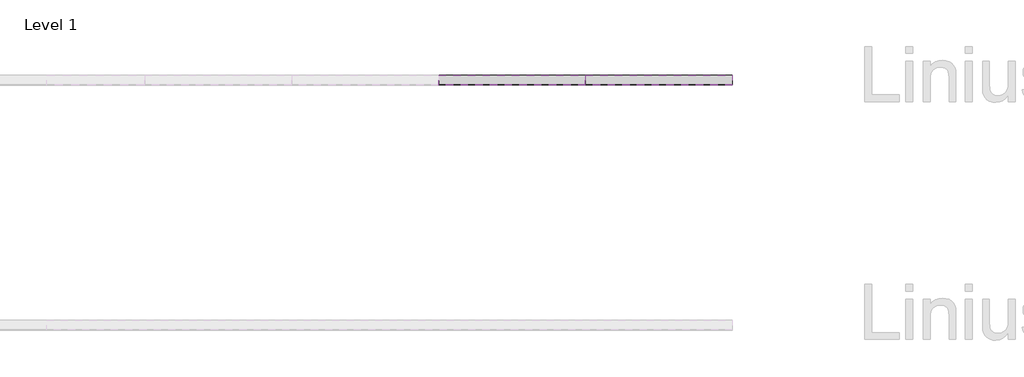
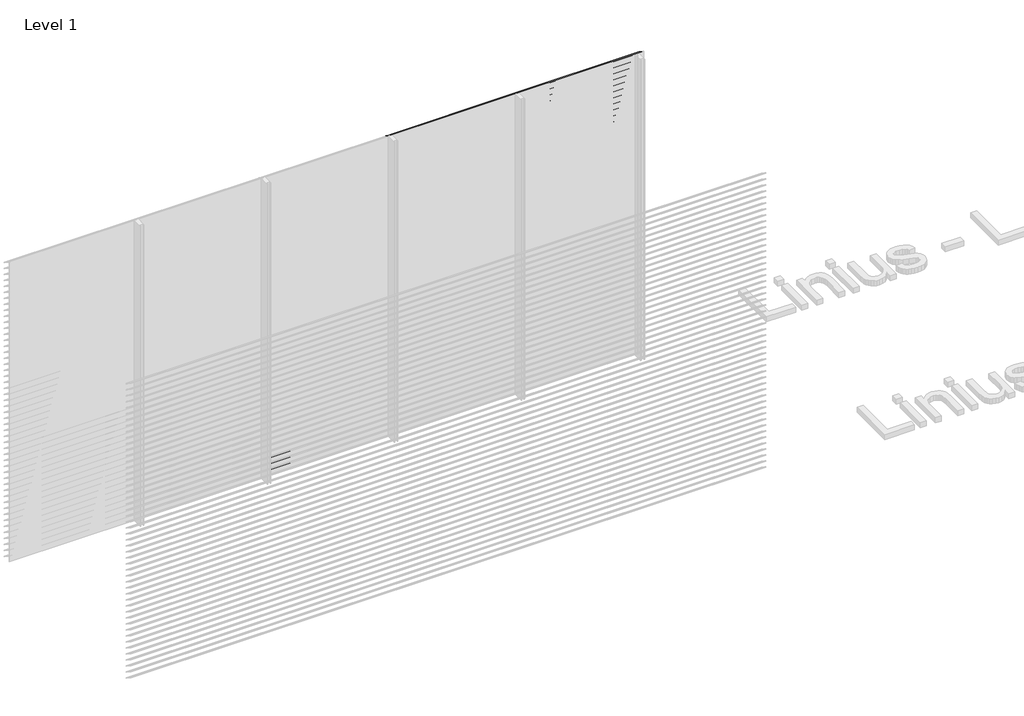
# One storey, part 80 of 153: 84 proxies.
"""IFC4 building model written with IfcOpenShell, lengths in millimetres."""

from ifc_helpers import new_model, si_unit, frame, origin, place, context, project, spatial, polyline, outline, extrude, element, save

model = new_model("IFC4")

# Units and contexts
model_context = context("Model", 3, world=origin())
ifc_project = project(units=[si_unit("LENGTHUNIT", "METRE", prefix="MILLI")], contexts=[model_context])

# Site, building, storey
site = spatial("IfcSite", under=ifc_project)
building = spatial("IfcBuilding", under=site)
storey = spatial("IfcBuildingStorey", under=building, Name="Level 1", Elevation=0.0)

# Proxies
placement = place(None, origin())
element("IfcBuildingElementProxy", 1, Name="Wall Sweeps", at=placement, inside=storey, context=model_context, shape_type="SweptSolid", body=[
    extrude(outline(polyline([(51561.0540136, 126.0), (51561.0540136, 120.0), (51559.8040136, 120.7216933), (51559.8040136, 125.2538091), (51483.0540136, 173.9915103), (51483.0540136, 180.0), (51484.3040136, 180.0), (51484.3040136, 174.7377012), (51561.0540136, 126.0)])), frame((2866.6208097, 0.0, 0.0), z_axis=(1.0, 0.0, 0.0), x_axis=(0.0, 1.0, 0.0)), (0.0, 0.0, 1.0), 1199.9999999),
])
element("IfcBuildingElementProxy", 2, Name="Wall Sweeps", at=placement, inside=storey, context=model_context, shape_type="SweptSolid", body=[
    extrude(outline(polyline([(51561.0540136, 66.0), (51561.0540136, 60.0), (51559.8040136, 60.7216933), (51559.8040136, 65.2538091), (51483.0540136, 113.9915103), (51483.0540136, 120.0), (51484.3040136, 120.0), (51484.3040136, 114.7377012), (51561.0540136, 66.0)])), frame((2866.6208097, 0.0, 0.0), z_axis=(1.0, 0.0, 0.0), x_axis=(0.0, 1.0, 0.0)), (0.0, 0.0, 1.0), 1199.9999999),
])
element("IfcBuildingElementProxy", 3, Name="Wall Sweeps", at=placement, inside=storey, context=model_context, shape_type="SweptSolid", body=[
    extrude(outline(polyline([(51561.0540136, 6.0), (51561.0540136, 0.0), (51559.8040136, 0.7216933), (51559.8040136, 5.2538091), (51483.0540136, 53.9915103), (51483.0540136, 60.0), (51484.3040136, 60.0), (51484.3040136, 54.7377012), (51561.0540136, 6.0)])), frame((2866.6208097, 0.0, 0.0), z_axis=(1.0, 0.0, 0.0), x_axis=(0.0, 1.0, 0.0)), (0.0, 0.0, 1.0), 1199.9999999),
])
element("IfcBuildingElementProxy", 4, Name="Wall Sweeps", at=placement, inside=storey, context=model_context, shape_type="SweptSolid", body=[
    extrude(outline(polyline([(51561.0540136, 2946.0), (51561.0540136, 2940.0), (51559.8040136, 2940.7216933), (51559.8040136, 2945.2538091), (51483.0540136, 2993.9915103), (51483.0540136, 3000.0), (51484.3040136, 3000.0), (51484.3040136, 2994.7377012), (51561.0540136, 2946.0)])), frame((4066.6208096, 0.0, 0.0), z_axis=(1.0, 0.0, 0.0), x_axis=(0.0, 1.0, 0.0)), (0.0, 0.0, 1.0), 1199.9999999),
])
element("IfcBuildingElementProxy", 5, Name="Wall Sweeps", at=placement, inside=storey, context=model_context, shape_type="SweptSolid", body=[
    extrude(outline(polyline([(51561.0540136, 2886.0), (51561.0540136, 2880.0), (51559.8040136, 2880.7216933), (51559.8040136, 2885.2538091), (51483.0540136, 2933.9915103), (51483.0540136, 2940.0), (51484.3040136, 2940.0), (51484.3040136, 2934.7377012), (51561.0540136, 2886.0)])), frame((4066.6208096, 0.0, 0.0), z_axis=(1.0, 0.0, 0.0), x_axis=(0.0, 1.0, 0.0)), (0.0, 0.0, 1.0), 1199.9999999),
])
element("IfcBuildingElementProxy", 6, Name="Wall Sweeps", at=placement, inside=storey, context=model_context, shape_type="SweptSolid", body=[
    extrude(outline(polyline([(51561.0540136, 2826.0), (51561.0540136, 2820.0), (51559.8040136, 2820.7216933), (51559.8040136, 2825.2538091), (51483.0540136, 2873.9915103), (51483.0540136, 2880.0), (51484.3040136, 2880.0), (51484.3040136, 2874.7377012), (51561.0540136, 2826.0)])), frame((4066.6208096, 0.0, 0.0), z_axis=(1.0, 0.0, 0.0), x_axis=(0.0, 1.0, 0.0)), (0.0, 0.0, 1.0), 1199.9999999),
])
element("IfcBuildingElementProxy", 7, Name="Wall Sweeps", at=placement, inside=storey, context=model_context, shape_type="SweptSolid", body=[
    extrude(outline(polyline([(51561.0540136, 2766.0), (51561.0540136, 2760.0), (51559.8040136, 2760.7216933), (51559.8040136, 2765.2538091), (51483.0540136, 2813.9915103), (51483.0540136, 2820.0), (51484.3040136, 2820.0), (51484.3040136, 2814.7377012), (51561.0540136, 2766.0)])), frame((4066.6208096, 0.0, 0.0), z_axis=(1.0, 0.0, 0.0), x_axis=(0.0, 1.0, 0.0)), (0.0, 0.0, 1.0), 1199.9999999),
])
element("IfcBuildingElementProxy", 8, Name="Wall Sweeps", at=placement, inside=storey, context=model_context, shape_type="SweptSolid", body=[
    extrude(outline(polyline([(51561.0540136, 2706.0), (51561.0540136, 2700.0), (51559.8040136, 2700.7216933), (51559.8040136, 2705.2538091), (51483.0540136, 2753.9915103), (51483.0540136, 2760.0), (51484.3040136, 2760.0), (51484.3040136, 2754.7377012), (51561.0540136, 2706.0)])), frame((4066.6208096, 0.0, 0.0), z_axis=(1.0, 0.0, 0.0), x_axis=(0.0, 1.0, 0.0)), (0.0, 0.0, 1.0), 1199.9999999),
])
element("IfcBuildingElementProxy", 9, Name="Wall Sweeps", at=placement, inside=storey, context=model_context, shape_type="SweptSolid", body=[
    extrude(outline(polyline([(51561.0540136, 2646.0), (51561.0540136, 2640.0), (51559.8040136, 2640.7216933), (51559.8040136, 2645.2538091), (51483.0540136, 2693.9915103), (51483.0540136, 2700.0), (51484.3040136, 2700.0), (51484.3040136, 2694.7377012), (51561.0540136, 2646.0)])), frame((4066.6208096, 0.0, 0.0), z_axis=(1.0, 0.0, 0.0), x_axis=(0.0, 1.0, 0.0)), (0.0, 0.0, 1.0), 1199.9999999),
])
element("IfcBuildingElementProxy", 10, Name="Wall Sweeps", at=placement, inside=storey, context=model_context, shape_type="SweptSolid", body=[
    extrude(outline(polyline([(51561.0540136, 2586.0), (51561.0540136, 2580.0), (51559.8040136, 2580.7216933), (51559.8040136, 2585.2538091), (51483.0540136, 2633.9915103), (51483.0540136, 2640.0), (51484.3040136, 2640.0), (51484.3040136, 2634.7377012), (51561.0540136, 2586.0)])), frame((4066.6208096, 0.0, 0.0), z_axis=(1.0, 0.0, 0.0), x_axis=(0.0, 1.0, 0.0)), (0.0, 0.0, 1.0), 1199.9999999),
])
element("IfcBuildingElementProxy", 11, Name="Wall Sweeps", at=placement, inside=storey, context=model_context, shape_type="SweptSolid", body=[
    extrude(outline(polyline([(51561.0540136, 2526.0), (51561.0540136, 2520.0), (51559.8040136, 2520.7216933), (51559.8040136, 2525.2538091), (51483.0540136, 2573.9915103), (51483.0540136, 2580.0), (51484.3040136, 2580.0), (51484.3040136, 2574.7377012), (51561.0540136, 2526.0)])), frame((4066.6208096, 0.0, 0.0), z_axis=(1.0, 0.0, 0.0), x_axis=(0.0, 1.0, 0.0)), (0.0, 0.0, 1.0), 1199.9999999),
])
element("IfcBuildingElementProxy", 12, Name="Wall Sweeps", at=placement, inside=storey, context=model_context, shape_type="SweptSolid", body=[
    extrude(outline(polyline([(51561.0540136, 2466.0), (51561.0540136, 2460.0), (51559.8040136, 2460.7216933), (51559.8040136, 2465.2538091), (51483.0540136, 2513.9915103), (51483.0540136, 2520.0), (51484.3040136, 2520.0), (51484.3040136, 2514.7377012), (51561.0540136, 2466.0)])), frame((4066.6208096, 0.0, 0.0), z_axis=(1.0, 0.0, 0.0), x_axis=(0.0, 1.0, 0.0)), (0.0, 0.0, 1.0), 1199.9999999),
])
element("IfcBuildingElementProxy", 13, Name="Wall Sweeps", at=placement, inside=storey, context=model_context, shape_type="SweptSolid", body=[
    extrude(outline(polyline([(51561.0540136, 2406.0), (51561.0540136, 2400.0), (51559.8040136, 2400.7216933), (51559.8040136, 2405.2538091), (51483.0540136, 2453.9915103), (51483.0540136, 2460.0), (51484.3040136, 2460.0), (51484.3040136, 2454.7377012), (51561.0540136, 2406.0)])), frame((4066.6208096, 0.0, 0.0), z_axis=(1.0, 0.0, 0.0), x_axis=(0.0, 1.0, 0.0)), (0.0, 0.0, 1.0), 1199.9999999),
])
element("IfcBuildingElementProxy", 14, Name="Wall Sweeps", at=placement, inside=storey, context=model_context, shape_type="SweptSolid", body=[
    extrude(outline(polyline([(51561.0540136, 2346.0), (51561.0540136, 2340.0), (51559.8040136, 2340.7216933), (51559.8040136, 2345.2538091), (51483.0540136, 2393.9915103), (51483.0540136, 2400.0), (51484.3040136, 2400.0), (51484.3040136, 2394.7377012), (51561.0540136, 2346.0)])), frame((4066.6208096, 0.0, 0.0), z_axis=(1.0, 0.0, 0.0), x_axis=(0.0, 1.0, 0.0)), (0.0, 0.0, 1.0), 1199.9999999),
])
element("IfcBuildingElementProxy", 15, Name="Wall Sweeps", at=placement, inside=storey, context=model_context, shape_type="SweptSolid", body=[
    extrude(outline(polyline([(51561.0540136, 2286.0), (51561.0540136, 2280.0), (51559.8040136, 2280.7216933), (51559.8040136, 2285.2538091), (51483.0540136, 2333.9915103), (51483.0540136, 2340.0), (51484.3040136, 2340.0), (51484.3040136, 2334.7377012), (51561.0540136, 2286.0)])), frame((4066.6208096, 0.0, 0.0), z_axis=(1.0, 0.0, 0.0), x_axis=(0.0, 1.0, 0.0)), (0.0, 0.0, 1.0), 1199.9999999),
])
element("IfcBuildingElementProxy", 16, Name="Wall Sweeps", at=placement, inside=storey, context=model_context, shape_type="SweptSolid", body=[
    extrude(outline(polyline([(51561.0540136, 2226.0), (51561.0540136, 2220.0), (51559.8040136, 2220.7216933), (51559.8040136, 2225.2538091), (51483.0540136, 2273.9915103), (51483.0540136, 2280.0), (51484.3040136, 2280.0), (51484.3040136, 2274.7377012), (51561.0540136, 2226.0)])), frame((4066.6208096, 0.0, 0.0), z_axis=(1.0, 0.0, 0.0), x_axis=(0.0, 1.0, 0.0)), (0.0, 0.0, 1.0), 1199.9999999),
])
element("IfcBuildingElementProxy", 17, Name="Wall Sweeps", at=placement, inside=storey, context=model_context, shape_type="SweptSolid", body=[
    extrude(outline(polyline([(51561.0540136, 2166.0), (51561.0540136, 2160.0), (51559.8040136, 2160.7216933), (51559.8040136, 2165.2538091), (51483.0540136, 2213.9915103), (51483.0540136, 2220.0), (51484.3040136, 2220.0), (51484.3040136, 2214.7377012), (51561.0540136, 2166.0)])), frame((4066.6208096, 0.0, 0.0), z_axis=(1.0, 0.0, 0.0), x_axis=(0.0, 1.0, 0.0)), (0.0, 0.0, 1.0), 1199.9999999),
])
element("IfcBuildingElementProxy", 18, Name="Wall Sweeps", at=placement, inside=storey, context=model_context, shape_type="SweptSolid", body=[
    extrude(outline(polyline([(51561.0540136, 2106.0), (51561.0540136, 2100.0), (51559.8040136, 2100.7216933), (51559.8040136, 2105.2538091), (51483.0540136, 2153.9915103), (51483.0540136, 2160.0), (51484.3040136, 2160.0), (51484.3040136, 2154.7377012), (51561.0540136, 2106.0)])), frame((4066.6208096, 0.0, 0.0), z_axis=(1.0, 0.0, 0.0), x_axis=(0.0, 1.0, 0.0)), (0.0, 0.0, 1.0), 1199.9999999),
])
element("IfcBuildingElementProxy", 19, Name="Wall Sweeps", at=placement, inside=storey, context=model_context, shape_type="SweptSolid", body=[
    extrude(outline(polyline([(51561.0540136, 2046.0), (51561.0540136, 2040.0), (51559.8040136, 2040.7216933), (51559.8040136, 2045.2538091), (51483.0540136, 2093.9915103), (51483.0540136, 2100.0), (51484.3040136, 2100.0), (51484.3040136, 2094.7377012), (51561.0540136, 2046.0)])), frame((4066.6208096, 0.0, 0.0), z_axis=(1.0, 0.0, 0.0), x_axis=(0.0, 1.0, 0.0)), (0.0, 0.0, 1.0), 1199.9999999),
])
element("IfcBuildingElementProxy", 20, Name="Wall Sweeps", at=placement, inside=storey, context=model_context, shape_type="SweptSolid", body=[
    extrude(outline(polyline([(51561.0540136, 1986.0), (51561.0540136, 1980.0), (51559.8040136, 1980.7216933), (51559.8040136, 1985.2538091), (51483.0540136, 2033.9915103), (51483.0540136, 2040.0), (51484.3040136, 2040.0), (51484.3040136, 2034.7377012), (51561.0540136, 1986.0)])), frame((4066.6208096, 0.0, 0.0), z_axis=(1.0, 0.0, 0.0), x_axis=(0.0, 1.0, 0.0)), (0.0, 0.0, 1.0), 1199.9999999),
])
element("IfcBuildingElementProxy", 21, Name="Wall Sweeps", at=placement, inside=storey, context=model_context, shape_type="SweptSolid", body=[
    extrude(outline(polyline([(51561.0540136, 1926.0), (51561.0540136, 1920.0), (51559.8040136, 1920.7216933), (51559.8040136, 1925.2538091), (51483.0540136, 1973.9915103), (51483.0540136, 1980.0), (51484.3040136, 1980.0), (51484.3040136, 1974.7377012), (51561.0540136, 1926.0)])), frame((4066.6208096, 0.0, 0.0), z_axis=(1.0, 0.0, 0.0), x_axis=(0.0, 1.0, 0.0)), (0.0, 0.0, 1.0), 1199.9999999),
])
element("IfcBuildingElementProxy", 22, Name="Wall Sweeps", at=placement, inside=storey, context=model_context, shape_type="SweptSolid", body=[
    extrude(outline(polyline([(51561.0540136, 1866.0), (51561.0540136, 1860.0), (51559.8040136, 1860.7216933), (51559.8040136, 1865.2538091), (51483.0540136, 1913.9915103), (51483.0540136, 1920.0), (51484.3040136, 1920.0), (51484.3040136, 1914.7377012), (51561.0540136, 1866.0)])), frame((4066.6208096, 0.0, 0.0), z_axis=(1.0, 0.0, 0.0), x_axis=(0.0, 1.0, 0.0)), (0.0, 0.0, 1.0), 1199.9999999),
])
element("IfcBuildingElementProxy", 23, Name="Wall Sweeps", at=placement, inside=storey, context=model_context, shape_type="SweptSolid", body=[
    extrude(outline(polyline([(51561.0540136, 1806.0), (51561.0540136, 1800.0), (51559.8040136, 1800.7216933), (51559.8040136, 1805.2538091), (51483.0540136, 1853.9915103), (51483.0540136, 1860.0), (51484.3040136, 1860.0), (51484.3040136, 1854.7377012), (51561.0540136, 1806.0)])), frame((4066.6208096, 0.0, 0.0), z_axis=(1.0, 0.0, 0.0), x_axis=(0.0, 1.0, 0.0)), (0.0, 0.0, 1.0), 1199.9999999),
])
element("IfcBuildingElementProxy", 24, Name="Wall Sweeps", at=placement, inside=storey, context=model_context, shape_type="SweptSolid", body=[
    extrude(outline(polyline([(51561.0540136, 1746.0), (51561.0540136, 1740.0), (51559.8040136, 1740.7216933), (51559.8040136, 1745.2538091), (51483.0540136, 1793.9915103), (51483.0540136, 1800.0), (51484.3040136, 1800.0), (51484.3040136, 1794.7377012), (51561.0540136, 1746.0)])), frame((4066.6208096, 0.0, 0.0), z_axis=(1.0, 0.0, 0.0), x_axis=(0.0, 1.0, 0.0)), (0.0, 0.0, 1.0), 1199.9999999),
])
element("IfcBuildingElementProxy", 25, Name="Wall Sweeps", at=placement, inside=storey, context=model_context, shape_type="SweptSolid", body=[
    extrude(outline(polyline([(51561.0540136, 1686.0), (51561.0540136, 1680.0), (51559.8040136, 1680.7216933), (51559.8040136, 1685.2538091), (51483.0540136, 1733.9915103), (51483.0540136, 1740.0), (51484.3040136, 1740.0), (51484.3040136, 1734.7377012), (51561.0540136, 1686.0)])), frame((4066.6208096, 0.0, 0.0), z_axis=(1.0, 0.0, 0.0), x_axis=(0.0, 1.0, 0.0)), (0.0, 0.0, 1.0), 1199.9999999),
])
element("IfcBuildingElementProxy", 26, Name="Wall Sweeps", at=placement, inside=storey, context=model_context, shape_type="SweptSolid", body=[
    extrude(outline(polyline([(51561.0540136, 1626.0), (51561.0540136, 1620.0), (51559.8040136, 1620.7216933), (51559.8040136, 1625.2538091), (51483.0540136, 1673.9915103), (51483.0540136, 1680.0), (51484.3040136, 1680.0), (51484.3040136, 1674.7377012), (51561.0540136, 1626.0)])), frame((4066.6208096, 0.0, 0.0), z_axis=(1.0, 0.0, 0.0), x_axis=(0.0, 1.0, 0.0)), (0.0, 0.0, 1.0), 1199.9999999),
])
element("IfcBuildingElementProxy", 27, Name="Wall Sweeps", at=placement, inside=storey, context=model_context, shape_type="SweptSolid", body=[
    extrude(outline(polyline([(51561.0540136, 1566.0), (51561.0540136, 1560.0), (51559.8040136, 1560.7216933), (51559.8040136, 1565.2538091), (51483.0540136, 1613.9915103), (51483.0540136, 1620.0), (51484.3040136, 1620.0), (51484.3040136, 1614.7377012), (51561.0540136, 1566.0)])), frame((4066.6208096, 0.0, 0.0), z_axis=(1.0, 0.0, 0.0), x_axis=(0.0, 1.0, 0.0)), (0.0, 0.0, 1.0), 1199.9999999),
])
element("IfcBuildingElementProxy", 28, Name="Wall Sweeps", at=placement, inside=storey, context=model_context, shape_type="SweptSolid", body=[
    extrude(outline(polyline([(51561.0540136, 1506.0), (51561.0540136, 1500.0), (51559.8040136, 1500.7216933), (51559.8040136, 1505.2538091), (51483.0540136, 1553.9915103), (51483.0540136, 1560.0), (51484.3040136, 1560.0), (51484.3040136, 1554.7377012), (51561.0540136, 1506.0)])), frame((4066.6208096, 0.0, 0.0), z_axis=(1.0, 0.0, 0.0), x_axis=(0.0, 1.0, 0.0)), (0.0, 0.0, 1.0), 1199.9999999),
])
element("IfcBuildingElementProxy", 29, Name="Wall Sweeps", at=placement, inside=storey, context=model_context, shape_type="SweptSolid", body=[
    extrude(outline(polyline([(51561.0540136, 1446.0), (51561.0540136, 1440.0), (51559.8040136, 1440.7216933), (51559.8040136, 1445.2538091), (51483.0540136, 1493.9915103), (51483.0540136, 1500.0), (51484.3040136, 1500.0), (51484.3040136, 1494.7377012), (51561.0540136, 1446.0)])), frame((4066.6208096, 0.0, 0.0), z_axis=(1.0, 0.0, 0.0), x_axis=(0.0, 1.0, 0.0)), (0.0, 0.0, 1.0), 1199.9999999),
])
element("IfcBuildingElementProxy", 30, Name="Wall Sweeps", at=placement, inside=storey, context=model_context, shape_type="SweptSolid", body=[
    extrude(outline(polyline([(51561.0540136, 1386.0), (51561.0540136, 1380.0), (51559.8040136, 1380.7216933), (51559.8040136, 1385.2538091), (51483.0540136, 1433.9915103), (51483.0540136, 1440.0), (51484.3040136, 1440.0), (51484.3040136, 1434.7377012), (51561.0540136, 1386.0)])), frame((4066.6208096, 0.0, 0.0), z_axis=(1.0, 0.0, 0.0), x_axis=(0.0, 1.0, 0.0)), (0.0, 0.0, 1.0), 1199.9999999),
])
element("IfcBuildingElementProxy", 31, Name="Wall Sweeps", at=placement, inside=storey, context=model_context, shape_type="SweptSolid", body=[
    extrude(outline(polyline([(51561.0540136, 1326.0), (51561.0540136, 1320.0), (51559.8040136, 1320.7216933), (51559.8040136, 1325.2538091), (51483.0540136, 1373.9915103), (51483.0540136, 1380.0), (51484.3040136, 1380.0), (51484.3040136, 1374.7377012), (51561.0540136, 1326.0)])), frame((4066.6208096, 0.0, 0.0), z_axis=(1.0, 0.0, 0.0), x_axis=(0.0, 1.0, 0.0)), (0.0, 0.0, 1.0), 1199.9999999),
])
element("IfcBuildingElementProxy", 32, Name="Wall Sweeps", at=placement, inside=storey, context=model_context, shape_type="SweptSolid", body=[
    extrude(outline(polyline([(51561.0540136, 1266.0), (51561.0540136, 1260.0), (51559.8040136, 1260.7216933), (51559.8040136, 1265.2538091), (51483.0540136, 1313.9915103), (51483.0540136, 1320.0), (51484.3040136, 1320.0), (51484.3040136, 1314.7377012), (51561.0540136, 1266.0)])), frame((4066.6208096, 0.0, 0.0), z_axis=(1.0, 0.0, 0.0), x_axis=(0.0, 1.0, 0.0)), (0.0, 0.0, 1.0), 1199.9999999),
])
element("IfcBuildingElementProxy", 33, Name="Wall Sweeps", at=placement, inside=storey, context=model_context, shape_type="SweptSolid", body=[
    extrude(outline(polyline([(51561.0540136, 1206.0), (51561.0540136, 1200.0), (51559.8040136, 1200.7216933), (51559.8040136, 1205.2538091), (51483.0540136, 1253.9915103), (51483.0540136, 1260.0), (51484.3040136, 1260.0), (51484.3040136, 1254.7377012), (51561.0540136, 1206.0)])), frame((4066.6208096, 0.0, 0.0), z_axis=(1.0, 0.0, 0.0), x_axis=(0.0, 1.0, 0.0)), (0.0, 0.0, 1.0), 1199.9999999),
])
element("IfcBuildingElementProxy", 34, Name="Wall Sweeps", at=placement, inside=storey, context=model_context, shape_type="SweptSolid", body=[
    extrude(outline(polyline([(51561.0540136, 1146.0), (51561.0540136, 1140.0), (51559.8040136, 1140.7216933), (51559.8040136, 1145.2538091), (51483.0540136, 1193.9915103), (51483.0540136, 1200.0), (51484.3040136, 1200.0), (51484.3040136, 1194.7377012), (51561.0540136, 1146.0)])), frame((4066.6208096, 0.0, 0.0), z_axis=(1.0, 0.0, 0.0), x_axis=(0.0, 1.0, 0.0)), (0.0, 0.0, 1.0), 1199.9999999),
])
element("IfcBuildingElementProxy", 35, Name="Wall Sweeps", at=placement, inside=storey, context=model_context, shape_type="SweptSolid", body=[
    extrude(outline(polyline([(51561.0540136, 1086.0), (51561.0540136, 1080.0), (51559.8040136, 1080.7216933), (51559.8040136, 1085.2538091), (51483.0540136, 1133.9915103), (51483.0540136, 1140.0), (51484.3040136, 1140.0), (51484.3040136, 1134.7377012), (51561.0540136, 1086.0)])), frame((4066.6208096, 0.0, 0.0), z_axis=(1.0, 0.0, 0.0), x_axis=(0.0, 1.0, 0.0)), (0.0, 0.0, 1.0), 1199.9999999),
])
element("IfcBuildingElementProxy", 36, Name="Wall Sweeps", at=placement, inside=storey, context=model_context, shape_type="SweptSolid", body=[
    extrude(outline(polyline([(51561.0540136, 1026.0), (51561.0540136, 1020.0), (51559.8040136, 1020.7216933), (51559.8040136, 1025.2538091), (51483.0540136, 1073.9915103), (51483.0540136, 1080.0), (51484.3040136, 1080.0), (51484.3040136, 1074.7377012), (51561.0540136, 1026.0)])), frame((4066.6208096, 0.0, 0.0), z_axis=(1.0, 0.0, 0.0), x_axis=(0.0, 1.0, 0.0)), (0.0, 0.0, 1.0), 1199.9999999),
])
element("IfcBuildingElementProxy", 37, Name="Wall Sweeps", at=placement, inside=storey, context=model_context, shape_type="SweptSolid", body=[
    extrude(outline(polyline([(51561.0540136, 966.0), (51561.0540136, 960.0), (51559.8040136, 960.7216933), (51559.8040136, 965.2538091), (51483.0540136, 1013.9915103), (51483.0540136, 1020.0), (51484.3040136, 1020.0), (51484.3040136, 1014.7377012), (51561.0540136, 966.0)])), frame((4066.6208096, 0.0, 0.0), z_axis=(1.0, 0.0, 0.0), x_axis=(0.0, 1.0, 0.0)), (0.0, 0.0, 1.0), 1199.9999999),
])
element("IfcBuildingElementProxy", 38, Name="Wall Sweeps", at=placement, inside=storey, context=model_context, shape_type="SweptSolid", body=[
    extrude(outline(polyline([(51561.0540136, 906.0), (51561.0540136, 900.0), (51559.8040136, 900.7216933), (51559.8040136, 905.2538091), (51483.0540136, 953.9915103), (51483.0540136, 960.0), (51484.3040136, 960.0), (51484.3040136, 954.7377012), (51561.0540136, 906.0)])), frame((4066.6208096, 0.0, 0.0), z_axis=(1.0, 0.0, 0.0), x_axis=(0.0, 1.0, 0.0)), (0.0, 0.0, 1.0), 1199.9999999),
])
element("IfcBuildingElementProxy", 39, Name="Wall Sweeps", at=placement, inside=storey, context=model_context, shape_type="SweptSolid", body=[
    extrude(outline(polyline([(51561.0540136, 846.0), (51561.0540136, 840.0), (51559.8040136, 840.7216933), (51559.8040136, 845.2538091), (51483.0540136, 893.9915103), (51483.0540136, 900.0), (51484.3040136, 900.0), (51484.3040136, 894.7377012), (51561.0540136, 846.0)])), frame((4066.6208096, 0.0, 0.0), z_axis=(1.0, 0.0, 0.0), x_axis=(0.0, 1.0, 0.0)), (0.0, 0.0, 1.0), 1199.9999999),
])
element("IfcBuildingElementProxy", 40, Name="Wall Sweeps", at=placement, inside=storey, context=model_context, shape_type="SweptSolid", body=[
    extrude(outline(polyline([(51561.0540136, 786.0), (51561.0540136, 780.0), (51559.8040136, 780.7216933), (51559.8040136, 785.2538091), (51483.0540136, 833.9915103), (51483.0540136, 840.0), (51484.3040136, 840.0), (51484.3040136, 834.7377012), (51561.0540136, 786.0)])), frame((4066.6208096, 0.0, 0.0), z_axis=(1.0, 0.0, 0.0), x_axis=(0.0, 1.0, 0.0)), (0.0, 0.0, 1.0), 1199.9999999),
])
element("IfcBuildingElementProxy", 41, Name="Wall Sweeps", at=placement, inside=storey, context=model_context, shape_type="SweptSolid", body=[
    extrude(outline(polyline([(51561.0540136, 726.0), (51561.0540136, 720.0), (51559.8040136, 720.7216933), (51559.8040136, 725.2538091), (51483.0540136, 773.9915103), (51483.0540136, 780.0), (51484.3040136, 780.0), (51484.3040136, 774.7377012), (51561.0540136, 726.0)])), frame((4066.6208096, 0.0, 0.0), z_axis=(1.0, 0.0, 0.0), x_axis=(0.0, 1.0, 0.0)), (0.0, 0.0, 1.0), 1199.9999999),
])
element("IfcBuildingElementProxy", 42, Name="Wall Sweeps", at=placement, inside=storey, context=model_context, shape_type="SweptSolid", body=[
    extrude(outline(polyline([(51561.0540136, 666.0), (51561.0540136, 660.0), (51559.8040136, 660.7216933), (51559.8040136, 665.2538091), (51483.0540136, 713.9915103), (51483.0540136, 720.0), (51484.3040136, 720.0), (51484.3040136, 714.7377012), (51561.0540136, 666.0)])), frame((4066.6208096, 0.0, 0.0), z_axis=(1.0, 0.0, 0.0), x_axis=(0.0, 1.0, 0.0)), (0.0, 0.0, 1.0), 1199.9999999),
])
element("IfcBuildingElementProxy", 43, Name="Wall Sweeps", at=placement, inside=storey, context=model_context, shape_type="SweptSolid", body=[
    extrude(outline(polyline([(51561.0540136, 606.0), (51561.0540136, 600.0), (51559.8040136, 600.7216933), (51559.8040136, 605.2538091), (51483.0540136, 653.9915103), (51483.0540136, 660.0), (51484.3040136, 660.0), (51484.3040136, 654.7377012), (51561.0540136, 606.0)])), frame((4066.6208096, 0.0, 0.0), z_axis=(1.0, 0.0, 0.0), x_axis=(0.0, 1.0, 0.0)), (0.0, 0.0, 1.0), 1199.9999999),
])
element("IfcBuildingElementProxy", 44, Name="Wall Sweeps", at=placement, inside=storey, context=model_context, shape_type="SweptSolid", body=[
    extrude(outline(polyline([(51561.0540136, 546.0), (51561.0540136, 540.0), (51559.8040136, 540.7216933), (51559.8040136, 545.2538091), (51483.0540136, 593.9915103), (51483.0540136, 600.0), (51484.3040136, 600.0), (51484.3040136, 594.7377012), (51561.0540136, 546.0)])), frame((4066.6208096, 0.0, 0.0), z_axis=(1.0, 0.0, 0.0), x_axis=(0.0, 1.0, 0.0)), (0.0, 0.0, 1.0), 1199.9999999),
])
element("IfcBuildingElementProxy", 45, Name="Wall Sweeps", at=placement, inside=storey, context=model_context, shape_type="SweptSolid", body=[
    extrude(outline(polyline([(51561.0540136, 486.0), (51561.0540136, 480.0), (51559.8040136, 480.7216933), (51559.8040136, 485.2538091), (51483.0540136, 533.9915103), (51483.0540136, 540.0), (51484.3040136, 540.0), (51484.3040136, 534.7377012), (51561.0540136, 486.0)])), frame((4066.6208096, 0.0, 0.0), z_axis=(1.0, 0.0, 0.0), x_axis=(0.0, 1.0, 0.0)), (0.0, 0.0, 1.0), 1199.9999999),
])
element("IfcBuildingElementProxy", 46, Name="Wall Sweeps", at=placement, inside=storey, context=model_context, shape_type="SweptSolid", body=[
    extrude(outline(polyline([(51561.0540136, 426.0), (51561.0540136, 420.0), (51559.8040136, 420.7216933), (51559.8040136, 425.2538091), (51483.0540136, 473.9915103), (51483.0540136, 480.0), (51484.3040136, 480.0), (51484.3040136, 474.7377012), (51561.0540136, 426.0)])), frame((4066.6208096, 0.0, 0.0), z_axis=(1.0, 0.0, 0.0), x_axis=(0.0, 1.0, 0.0)), (0.0, 0.0, 1.0), 1199.9999999),
])
element("IfcBuildingElementProxy", 47, Name="Wall Sweeps", at=placement, inside=storey, context=model_context, shape_type="SweptSolid", body=[
    extrude(outline(polyline([(51561.0540136, 366.0), (51561.0540136, 360.0), (51559.8040136, 360.7216933), (51559.8040136, 365.2538091), (51483.0540136, 413.9915103), (51483.0540136, 420.0), (51484.3040136, 420.0), (51484.3040136, 414.7377012), (51561.0540136, 366.0)])), frame((4066.6208096, 0.0, 0.0), z_axis=(1.0, 0.0, 0.0), x_axis=(0.0, 1.0, 0.0)), (0.0, 0.0, 1.0), 1199.9999999),
])
element("IfcBuildingElementProxy", 48, Name="Wall Sweeps", at=placement, inside=storey, context=model_context, shape_type="SweptSolid", body=[
    extrude(outline(polyline([(51561.0540136, 306.0), (51561.0540136, 300.0), (51559.8040136, 300.7216933), (51559.8040136, 305.2538091), (51483.0540136, 353.9915103), (51483.0540136, 360.0), (51484.3040136, 360.0), (51484.3040136, 354.7377012), (51561.0540136, 306.0)])), frame((4066.6208096, 0.0, 0.0), z_axis=(1.0, 0.0, 0.0), x_axis=(0.0, 1.0, 0.0)), (0.0, 0.0, 1.0), 1199.9999999),
])
element("IfcBuildingElementProxy", 49, Name="Wall Sweeps", at=placement, inside=storey, context=model_context, shape_type="SweptSolid", body=[
    extrude(outline(polyline([(51561.0540136, 246.0), (51561.0540136, 240.0), (51559.8040136, 240.7216933), (51559.8040136, 245.2538091), (51483.0540136, 293.9915103), (51483.0540136, 300.0), (51484.3040136, 300.0), (51484.3040136, 294.7377012), (51561.0540136, 246.0)])), frame((4066.6208096, 0.0, 0.0), z_axis=(1.0, 0.0, 0.0), x_axis=(0.0, 1.0, 0.0)), (0.0, 0.0, 1.0), 1199.9999999),
])
element("IfcBuildingElementProxy", 50, Name="Wall Sweeps", at=placement, inside=storey, context=model_context, shape_type="SweptSolid", body=[
    extrude(outline(polyline([(51561.0540136, 186.0), (51561.0540136, 180.0), (51559.8040136, 180.7216933), (51559.8040136, 185.2538091), (51483.0540136, 233.9915103), (51483.0540136, 240.0), (51484.3040136, 240.0), (51484.3040136, 234.7377012), (51561.0540136, 186.0)])), frame((4066.6208096, 0.0, 0.0), z_axis=(1.0, 0.0, 0.0), x_axis=(0.0, 1.0, 0.0)), (0.0, 0.0, 1.0), 1199.9999999),
])
element("IfcBuildingElementProxy", 51, Name="Wall Sweeps", at=placement, inside=storey, context=model_context, shape_type="SweptSolid", body=[
    extrude(outline(polyline([(51561.0540136, 126.0), (51561.0540136, 120.0), (51559.8040136, 120.7216933), (51559.8040136, 125.2538091), (51483.0540136, 173.9915103), (51483.0540136, 180.0), (51484.3040136, 180.0), (51484.3040136, 174.7377012), (51561.0540136, 126.0)])), frame((4066.6208096, 0.0, 0.0), z_axis=(1.0, 0.0, 0.0), x_axis=(0.0, 1.0, 0.0)), (0.0, 0.0, 1.0), 1199.9999999),
])
element("IfcBuildingElementProxy", 52, Name="Wall Sweeps", at=placement, inside=storey, context=model_context, shape_type="SweptSolid", body=[
    extrude(outline(polyline([(51561.0540136, 66.0), (51561.0540136, 60.0), (51559.8040136, 60.7216933), (51559.8040136, 65.2538091), (51483.0540136, 113.9915103), (51483.0540136, 120.0), (51484.3040136, 120.0), (51484.3040136, 114.7377012), (51561.0540136, 66.0)])), frame((4066.6208096, 0.0, 0.0), z_axis=(1.0, 0.0, 0.0), x_axis=(0.0, 1.0, 0.0)), (0.0, 0.0, 1.0), 1199.9999999),
])
element("IfcBuildingElementProxy", 53, Name="Wall Sweeps", at=placement, inside=storey, context=model_context, shape_type="SweptSolid", body=[
    extrude(outline(polyline([(51561.0540136, 6.0), (51561.0540136, 0.0), (51559.8040136, 0.7216933), (51559.8040136, 5.2538091), (51483.0540136, 53.9915103), (51483.0540136, 60.0), (51484.3040136, 60.0), (51484.3040136, 54.7377012), (51561.0540136, 6.0)])), frame((4066.6208096, 0.0, 0.0), z_axis=(1.0, 0.0, 0.0), x_axis=(0.0, 1.0, 0.0)), (0.0, 0.0, 1.0), 1199.9999999),
])
element("IfcBuildingElementProxy", 54, Name="Wall Sweeps", at=placement, inside=storey, context=model_context, shape_type="SweptSolid", body=[
    extrude(outline(polyline([(51561.0540136, 2946.0), (51561.0540136, 2940.0), (51559.8040136, 2940.7216933), (51559.8040136, 2945.2538091), (51483.0540136, 2993.9915103), (51483.0540136, 3000.0), (51484.3040136, 3000.0), (51484.3040136, 2994.7377012), (51561.0540136, 2946.0)])), frame((5266.6208095, 0.0, 0.0), z_axis=(1.0, 0.0, 0.0), x_axis=(0.0, 1.0, 0.0)), (0.0, 0.0, 1.0), 1200.0000002),
])
element("IfcBuildingElementProxy", 55, Name="Wall Sweeps", at=placement, inside=storey, context=model_context, shape_type="SweptSolid", body=[
    extrude(outline(polyline([(51561.0540136, 2886.0), (51561.0540136, 2880.0), (51559.8040136, 2880.7216933), (51559.8040136, 2885.2538091), (51483.0540136, 2933.9915103), (51483.0540136, 2940.0), (51484.3040136, 2940.0), (51484.3040136, 2934.7377012), (51561.0540136, 2886.0)])), frame((5266.6208095, 0.0, 0.0), z_axis=(1.0, 0.0, 0.0), x_axis=(0.0, 1.0, 0.0)), (0.0, 0.0, 1.0), 1200.0000002),
])
element("IfcBuildingElementProxy", 56, Name="Wall Sweeps", at=placement, inside=storey, context=model_context, shape_type="SweptSolid", body=[
    extrude(outline(polyline([(51561.0540136, 2826.0), (51561.0540136, 2820.0), (51559.8040136, 2820.7216933), (51559.8040136, 2825.2538091), (51483.0540136, 2873.9915103), (51483.0540136, 2880.0), (51484.3040136, 2880.0), (51484.3040136, 2874.7377012), (51561.0540136, 2826.0)])), frame((5266.6208095, 0.0, 0.0), z_axis=(1.0, 0.0, 0.0), x_axis=(0.0, 1.0, 0.0)), (0.0, 0.0, 1.0), 1200.0000002),
])
element("IfcBuildingElementProxy", 57, Name="Wall Sweeps", at=placement, inside=storey, context=model_context, shape_type="SweptSolid", body=[
    extrude(outline(polyline([(51561.0540136, 2766.0), (51561.0540136, 2760.0), (51559.8040136, 2760.7216933), (51559.8040136, 2765.2538091), (51483.0540136, 2813.9915103), (51483.0540136, 2820.0), (51484.3040136, 2820.0), (51484.3040136, 2814.7377012), (51561.0540136, 2766.0)])), frame((5266.6208095, 0.0, 0.0), z_axis=(1.0, 0.0, 0.0), x_axis=(0.0, 1.0, 0.0)), (0.0, 0.0, 1.0), 1200.0000002),
])
element("IfcBuildingElementProxy", 58, Name="Wall Sweeps", at=placement, inside=storey, context=model_context, shape_type="SweptSolid", body=[
    extrude(outline(polyline([(51561.0540136, 2706.0), (51561.0540136, 2700.0), (51559.8040136, 2700.7216933), (51559.8040136, 2705.2538091), (51483.0540136, 2753.9915103), (51483.0540136, 2760.0), (51484.3040136, 2760.0), (51484.3040136, 2754.7377012), (51561.0540136, 2706.0)])), frame((5266.6208095, 0.0, 0.0), z_axis=(1.0, 0.0, 0.0), x_axis=(0.0, 1.0, 0.0)), (0.0, 0.0, 1.0), 1200.0000002),
])
element("IfcBuildingElementProxy", 59, Name="Wall Sweeps", at=placement, inside=storey, context=model_context, shape_type="SweptSolid", body=[
    extrude(outline(polyline([(51561.0540136, 2646.0), (51561.0540136, 2640.0), (51559.8040136, 2640.7216933), (51559.8040136, 2645.2538091), (51483.0540136, 2693.9915103), (51483.0540136, 2700.0), (51484.3040136, 2700.0), (51484.3040136, 2694.7377012), (51561.0540136, 2646.0)])), frame((5266.6208095, 0.0, 0.0), z_axis=(1.0, 0.0, 0.0), x_axis=(0.0, 1.0, 0.0)), (0.0, 0.0, 1.0), 1200.0000002),
])
element("IfcBuildingElementProxy", 60, Name="Wall Sweeps", at=placement, inside=storey, context=model_context, shape_type="SweptSolid", body=[
    extrude(outline(polyline([(51561.0540136, 2586.0), (51561.0540136, 2580.0), (51559.8040136, 2580.7216933), (51559.8040136, 2585.2538091), (51483.0540136, 2633.9915103), (51483.0540136, 2640.0), (51484.3040136, 2640.0), (51484.3040136, 2634.7377012), (51561.0540136, 2586.0)])), frame((5266.6208095, 0.0, 0.0), z_axis=(1.0, 0.0, 0.0), x_axis=(0.0, 1.0, 0.0)), (0.0, 0.0, 1.0), 1200.0000002),
])
element("IfcBuildingElementProxy", 61, Name="Wall Sweeps", at=placement, inside=storey, context=model_context, shape_type="SweptSolid", body=[
    extrude(outline(polyline([(51561.0540136, 2526.0), (51561.0540136, 2520.0), (51559.8040136, 2520.7216933), (51559.8040136, 2525.2538091), (51483.0540136, 2573.9915103), (51483.0540136, 2580.0), (51484.3040136, 2580.0), (51484.3040136, 2574.7377012), (51561.0540136, 2526.0)])), frame((5266.6208095, 0.0, 0.0), z_axis=(1.0, 0.0, 0.0), x_axis=(0.0, 1.0, 0.0)), (0.0, 0.0, 1.0), 1200.0000002),
])
element("IfcBuildingElementProxy", 62, Name="Wall Sweeps", at=placement, inside=storey, context=model_context, shape_type="SweptSolid", body=[
    extrude(outline(polyline([(51561.0540136, 2466.0), (51561.0540136, 2460.0), (51559.8040136, 2460.7216933), (51559.8040136, 2465.2538091), (51483.0540136, 2513.9915103), (51483.0540136, 2520.0), (51484.3040136, 2520.0), (51484.3040136, 2514.7377012), (51561.0540136, 2466.0)])), frame((5266.6208095, 0.0, 0.0), z_axis=(1.0, 0.0, 0.0), x_axis=(0.0, 1.0, 0.0)), (0.0, 0.0, 1.0), 1200.0000002),
])
element("IfcBuildingElementProxy", 63, Name="Wall Sweeps", at=placement, inside=storey, context=model_context, shape_type="SweptSolid", body=[
    extrude(outline(polyline([(51561.0540136, 2406.0), (51561.0540136, 2400.0), (51559.8040136, 2400.7216933), (51559.8040136, 2405.2538091), (51483.0540136, 2453.9915103), (51483.0540136, 2460.0), (51484.3040136, 2460.0), (51484.3040136, 2454.7377012), (51561.0540136, 2406.0)])), frame((5266.6208095, 0.0, 0.0), z_axis=(1.0, 0.0, 0.0), x_axis=(0.0, 1.0, 0.0)), (0.0, 0.0, 1.0), 1200.0000002),
])
element("IfcBuildingElementProxy", 64, Name="Wall Sweeps", at=placement, inside=storey, context=model_context, shape_type="SweptSolid", body=[
    extrude(outline(polyline([(51561.0540136, 2346.0), (51561.0540136, 2340.0), (51559.8040136, 2340.7216933), (51559.8040136, 2345.2538091), (51483.0540136, 2393.9915103), (51483.0540136, 2400.0), (51484.3040136, 2400.0), (51484.3040136, 2394.7377012), (51561.0540136, 2346.0)])), frame((5266.6208095, 0.0, 0.0), z_axis=(1.0, 0.0, 0.0), x_axis=(0.0, 1.0, 0.0)), (0.0, 0.0, 1.0), 1200.0000002),
])
element("IfcBuildingElementProxy", 65, Name="Wall Sweeps", at=placement, inside=storey, context=model_context, shape_type="SweptSolid", body=[
    extrude(outline(polyline([(51561.0540136, 2286.0), (51561.0540136, 2280.0), (51559.8040136, 2280.7216933), (51559.8040136, 2285.2538091), (51483.0540136, 2333.9915103), (51483.0540136, 2340.0), (51484.3040136, 2340.0), (51484.3040136, 2334.7377012), (51561.0540136, 2286.0)])), frame((5266.6208095, 0.0, 0.0), z_axis=(1.0, 0.0, 0.0), x_axis=(0.0, 1.0, 0.0)), (0.0, 0.0, 1.0), 1200.0000002),
])
element("IfcBuildingElementProxy", 66, Name="Wall Sweeps", at=placement, inside=storey, context=model_context, shape_type="SweptSolid", body=[
    extrude(outline(polyline([(51561.0540136, 2226.0), (51561.0540136, 2220.0), (51559.8040136, 2220.7216933), (51559.8040136, 2225.2538091), (51483.0540136, 2273.9915103), (51483.0540136, 2280.0), (51484.3040136, 2280.0), (51484.3040136, 2274.7377012), (51561.0540136, 2226.0)])), frame((5266.6208095, 0.0, 0.0), z_axis=(1.0, 0.0, 0.0), x_axis=(0.0, 1.0, 0.0)), (0.0, 0.0, 1.0), 1200.0000002),
])
element("IfcBuildingElementProxy", 67, Name="Wall Sweeps", at=placement, inside=storey, context=model_context, shape_type="SweptSolid", body=[
    extrude(outline(polyline([(51561.0540136, 2166.0), (51561.0540136, 2160.0), (51559.8040136, 2160.7216933), (51559.8040136, 2165.2538091), (51483.0540136, 2213.9915103), (51483.0540136, 2220.0), (51484.3040136, 2220.0), (51484.3040136, 2214.7377012), (51561.0540136, 2166.0)])), frame((5266.6208095, 0.0, 0.0), z_axis=(1.0, 0.0, 0.0), x_axis=(0.0, 1.0, 0.0)), (0.0, 0.0, 1.0), 1200.0000002),
])
element("IfcBuildingElementProxy", 68, Name="Wall Sweeps", at=placement, inside=storey, context=model_context, shape_type="SweptSolid", body=[
    extrude(outline(polyline([(51561.0540136, 2106.0), (51561.0540136, 2100.0), (51559.8040136, 2100.7216933), (51559.8040136, 2105.2538091), (51483.0540136, 2153.9915103), (51483.0540136, 2160.0), (51484.3040136, 2160.0), (51484.3040136, 2154.7377012), (51561.0540136, 2106.0)])), frame((5266.6208095, 0.0, 0.0), z_axis=(1.0, 0.0, 0.0), x_axis=(0.0, 1.0, 0.0)), (0.0, 0.0, 1.0), 1200.0000002),
])
element("IfcBuildingElementProxy", 69, Name="Wall Sweeps", at=placement, inside=storey, context=model_context, shape_type="SweptSolid", body=[
    extrude(outline(polyline([(51561.0540136, 2046.0), (51561.0540136, 2040.0), (51559.8040136, 2040.7216933), (51559.8040136, 2045.2538091), (51483.0540136, 2093.9915103), (51483.0540136, 2100.0), (51484.3040136, 2100.0), (51484.3040136, 2094.7377012), (51561.0540136, 2046.0)])), frame((5266.6208095, 0.0, 0.0), z_axis=(1.0, 0.0, 0.0), x_axis=(0.0, 1.0, 0.0)), (0.0, 0.0, 1.0), 1200.0000002),
])
element("IfcBuildingElementProxy", 70, Name="Wall Sweeps", at=placement, inside=storey, context=model_context, shape_type="SweptSolid", body=[
    extrude(outline(polyline([(51561.0540136, 1986.0), (51561.0540136, 1980.0), (51559.8040136, 1980.7216933), (51559.8040136, 1985.2538091), (51483.0540136, 2033.9915103), (51483.0540136, 2040.0), (51484.3040136, 2040.0), (51484.3040136, 2034.7377012), (51561.0540136, 1986.0)])), frame((5266.6208095, 0.0, 0.0), z_axis=(1.0, 0.0, 0.0), x_axis=(0.0, 1.0, 0.0)), (0.0, 0.0, 1.0), 1200.0000002),
])
element("IfcBuildingElementProxy", 71, Name="Wall Sweeps", at=placement, inside=storey, context=model_context, shape_type="SweptSolid", body=[
    extrude(outline(polyline([(51561.0540136, 1926.0), (51561.0540136, 1920.0), (51559.8040136, 1920.7216933), (51559.8040136, 1925.2538091), (51483.0540136, 1973.9915103), (51483.0540136, 1980.0), (51484.3040136, 1980.0), (51484.3040136, 1974.7377012), (51561.0540136, 1926.0)])), frame((5266.6208095, 0.0, 0.0), z_axis=(1.0, 0.0, 0.0), x_axis=(0.0, 1.0, 0.0)), (0.0, 0.0, 1.0), 1200.0000002),
])
element("IfcBuildingElementProxy", 72, Name="Wall Sweeps", at=placement, inside=storey, context=model_context, shape_type="SweptSolid", body=[
    extrude(outline(polyline([(51561.0540136, 1866.0), (51561.0540136, 1860.0), (51559.8040136, 1860.7216933), (51559.8040136, 1865.2538091), (51483.0540136, 1913.9915103), (51483.0540136, 1920.0), (51484.3040136, 1920.0), (51484.3040136, 1914.7377012), (51561.0540136, 1866.0)])), frame((5266.6208095, 0.0, 0.0), z_axis=(1.0, 0.0, 0.0), x_axis=(0.0, 1.0, 0.0)), (0.0, 0.0, 1.0), 1200.0000002),
])
element("IfcBuildingElementProxy", 73, Name="Wall Sweeps", at=placement, inside=storey, context=model_context, shape_type="SweptSolid", body=[
    extrude(outline(polyline([(51561.0540136, 1806.0), (51561.0540136, 1800.0), (51559.8040136, 1800.7216933), (51559.8040136, 1805.2538091), (51483.0540136, 1853.9915103), (51483.0540136, 1860.0), (51484.3040136, 1860.0), (51484.3040136, 1854.7377012), (51561.0540136, 1806.0)])), frame((5266.6208095, 0.0, 0.0), z_axis=(1.0, 0.0, 0.0), x_axis=(0.0, 1.0, 0.0)), (0.0, 0.0, 1.0), 1200.0000002),
])
element("IfcBuildingElementProxy", 74, Name="Wall Sweeps", at=placement, inside=storey, context=model_context, shape_type="SweptSolid", body=[
    extrude(outline(polyline([(51561.0540136, 1746.0), (51561.0540136, 1740.0), (51559.8040136, 1740.7216933), (51559.8040136, 1745.2538091), (51483.0540136, 1793.9915103), (51483.0540136, 1800.0), (51484.3040136, 1800.0), (51484.3040136, 1794.7377012), (51561.0540136, 1746.0)])), frame((5266.6208095, 0.0, 0.0), z_axis=(1.0, 0.0, 0.0), x_axis=(0.0, 1.0, 0.0)), (0.0, 0.0, 1.0), 1200.0000002),
])
element("IfcBuildingElementProxy", 75, Name="Wall Sweeps", at=placement, inside=storey, context=model_context, shape_type="SweptSolid", body=[
    extrude(outline(polyline([(51561.0540136, 1686.0), (51561.0540136, 1680.0), (51559.8040136, 1680.7216933), (51559.8040136, 1685.2538091), (51483.0540136, 1733.9915103), (51483.0540136, 1740.0), (51484.3040136, 1740.0), (51484.3040136, 1734.7377012), (51561.0540136, 1686.0)])), frame((5266.6208095, 0.0, 0.0), z_axis=(1.0, 0.0, 0.0), x_axis=(0.0, 1.0, 0.0)), (0.0, 0.0, 1.0), 1200.0000002),
])
element("IfcBuildingElementProxy", 76, Name="Wall Sweeps", at=placement, inside=storey, context=model_context, shape_type="SweptSolid", body=[
    extrude(outline(polyline([(51561.0540136, 1626.0), (51561.0540136, 1620.0), (51559.8040136, 1620.7216933), (51559.8040136, 1625.2538091), (51483.0540136, 1673.9915103), (51483.0540136, 1680.0), (51484.3040136, 1680.0), (51484.3040136, 1674.7377012), (51561.0540136, 1626.0)])), frame((5266.6208095, 0.0, 0.0), z_axis=(1.0, 0.0, 0.0), x_axis=(0.0, 1.0, 0.0)), (0.0, 0.0, 1.0), 1200.0000002),
])
element("IfcBuildingElementProxy", 77, Name="Wall Sweeps", at=placement, inside=storey, context=model_context, shape_type="SweptSolid", body=[
    extrude(outline(polyline([(51561.0540136, 1566.0), (51561.0540136, 1560.0), (51559.8040136, 1560.7216933), (51559.8040136, 1565.2538091), (51483.0540136, 1613.9915103), (51483.0540136, 1620.0), (51484.3040136, 1620.0), (51484.3040136, 1614.7377012), (51561.0540136, 1566.0)])), frame((5266.6208095, 0.0, 0.0), z_axis=(1.0, 0.0, 0.0), x_axis=(0.0, 1.0, 0.0)), (0.0, 0.0, 1.0), 1200.0000002),
])
element("IfcBuildingElementProxy", 78, Name="Wall Sweeps", at=placement, inside=storey, context=model_context, shape_type="SweptSolid", body=[
    extrude(outline(polyline([(51561.0540136, 1506.0), (51561.0540136, 1500.0), (51559.8040136, 1500.7216933), (51559.8040136, 1505.2538091), (51483.0540136, 1553.9915103), (51483.0540136, 1560.0), (51484.3040136, 1560.0), (51484.3040136, 1554.7377012), (51561.0540136, 1506.0)])), frame((5266.6208095, 0.0, 0.0), z_axis=(1.0, 0.0, 0.0), x_axis=(0.0, 1.0, 0.0)), (0.0, 0.0, 1.0), 1200.0000002),
])
element("IfcBuildingElementProxy", 79, Name="Wall Sweeps", at=placement, inside=storey, context=model_context, shape_type="SweptSolid", body=[
    extrude(outline(polyline([(51561.0540136, 1446.0), (51561.0540136, 1440.0), (51559.8040136, 1440.7216933), (51559.8040136, 1445.2538091), (51483.0540136, 1493.9915103), (51483.0540136, 1500.0), (51484.3040136, 1500.0), (51484.3040136, 1494.7377012), (51561.0540136, 1446.0)])), frame((5266.6208095, 0.0, 0.0), z_axis=(1.0, 0.0, 0.0), x_axis=(0.0, 1.0, 0.0)), (0.0, 0.0, 1.0), 1200.0000002),
])
element("IfcBuildingElementProxy", 80, Name="Wall Sweeps", at=placement, inside=storey, context=model_context, shape_type="SweptSolid", body=[
    extrude(outline(polyline([(51561.0540136, 1386.0), (51561.0540136, 1380.0), (51559.8040136, 1380.7216933), (51559.8040136, 1385.2538091), (51483.0540136, 1433.9915103), (51483.0540136, 1440.0), (51484.3040136, 1440.0), (51484.3040136, 1434.7377012), (51561.0540136, 1386.0)])), frame((5266.6208095, 0.0, 0.0), z_axis=(1.0, 0.0, 0.0), x_axis=(0.0, 1.0, 0.0)), (0.0, 0.0, 1.0), 1200.0000002),
])
element("IfcBuildingElementProxy", 81, Name="Wall Sweeps", at=placement, inside=storey, context=model_context, shape_type="SweptSolid", body=[
    extrude(outline(polyline([(51561.0540136, 1326.0), (51561.0540136, 1320.0), (51559.8040136, 1320.7216933), (51559.8040136, 1325.2538091), (51483.0540136, 1373.9915103), (51483.0540136, 1380.0), (51484.3040136, 1380.0), (51484.3040136, 1374.7377012), (51561.0540136, 1326.0)])), frame((5266.6208095, 0.0, 0.0), z_axis=(1.0, 0.0, 0.0), x_axis=(0.0, 1.0, 0.0)), (0.0, 0.0, 1.0), 1200.0000002),
])
element("IfcBuildingElementProxy", 82, Name="Wall Sweeps", at=placement, inside=storey, context=model_context, shape_type="SweptSolid", body=[
    extrude(outline(polyline([(51561.0540136, 1266.0), (51561.0540136, 1260.0), (51559.8040136, 1260.7216933), (51559.8040136, 1265.2538091), (51483.0540136, 1313.9915103), (51483.0540136, 1320.0), (51484.3040136, 1320.0), (51484.3040136, 1314.7377012), (51561.0540136, 1266.0)])), frame((5266.6208095, 0.0, 0.0), z_axis=(1.0, 0.0, 0.0), x_axis=(0.0, 1.0, 0.0)), (0.0, 0.0, 1.0), 1200.0000002),
])
element("IfcBuildingElementProxy", 83, Name="Wall Sweeps", at=placement, inside=storey, context=model_context, shape_type="SweptSolid", body=[
    extrude(outline(polyline([(51561.0540136, 1206.0), (51561.0540136, 1200.0), (51559.8040136, 1200.7216933), (51559.8040136, 1205.2538091), (51483.0540136, 1253.9915103), (51483.0540136, 1260.0), (51484.3040136, 1260.0), (51484.3040136, 1254.7377012), (51561.0540136, 1206.0)])), frame((5266.6208095, 0.0, 0.0), z_axis=(1.0, 0.0, 0.0), x_axis=(0.0, 1.0, 0.0)), (0.0, 0.0, 1.0), 1200.0000002),
])
element("IfcBuildingElementProxy", 84, Name="Wall Sweeps", at=placement, inside=storey, context=model_context, shape_type="SweptSolid", body=[
    extrude(outline(polyline([(51561.0540136, 1146.0), (51561.0540136, 1140.0), (51559.8040136, 1140.7216933), (51559.8040136, 1145.2538091), (51483.0540136, 1193.9915103), (51483.0540136, 1200.0), (51484.3040136, 1200.0), (51484.3040136, 1194.7377012), (51561.0540136, 1146.0)])), frame((5266.6208095, 0.0, 0.0), z_axis=(1.0, 0.0, 0.0), x_axis=(0.0, 1.0, 0.0)), (0.0, 0.0, 1.0), 1200.0000002),
])

save(model, "model.ifc")
